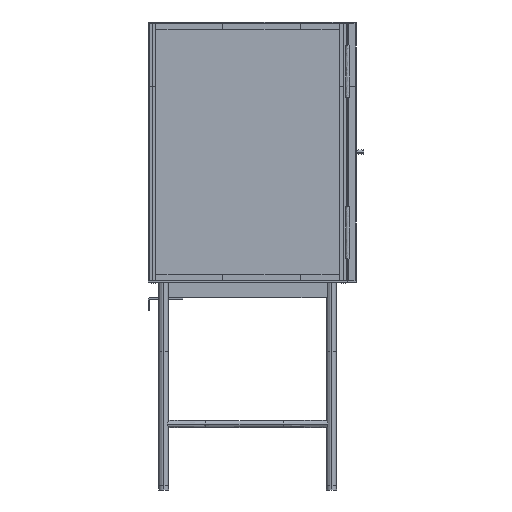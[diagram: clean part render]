
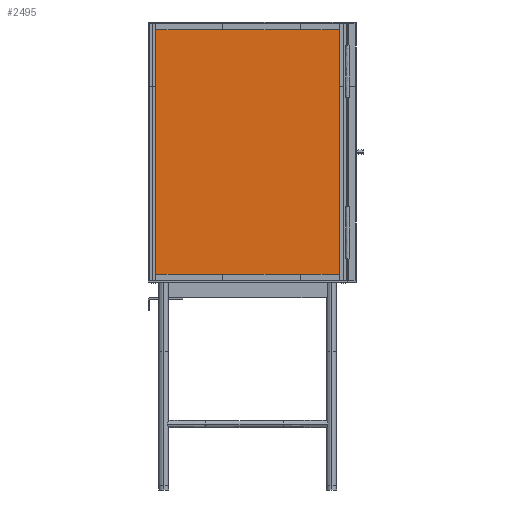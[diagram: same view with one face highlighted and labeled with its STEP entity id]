
A CAD part, left-side view. The second image highlights one B-rep face of the part: STEP entity #2495.
In plain terms, the highlighted planar face has unit normal (-1, 0, 0).
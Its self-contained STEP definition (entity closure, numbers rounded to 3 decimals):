
#802=B_SPLINE_CURVE_WITH_KNOTS('',1,(#21167,#21168),.UNSPECIFIED.,.F.,.F.,
(2,2),(0.,496.),.UNSPECIFIED.);
#805=B_SPLINE_CURVE_WITH_KNOTS('',1,(#21173,#21174),.UNSPECIFIED.,.F.,.F.,
(2,2),(0.,367.),.UNSPECIFIED.);
#806=B_SPLINE_CURVE_WITH_KNOTS('',1,(#21175,#21176),.UNSPECIFIED.,.F.,.F.,
(2,2),(0.,496.),.UNSPECIFIED.);
#807=B_SPLINE_CURVE_WITH_KNOTS('',1,(#21177,#21178),.UNSPECIFIED.,.F.,.F.,
(2,2),(0.,367.),.UNSPECIFIED.);
#2495=ADVANCED_FACE('',(#3405),#12853,.T.);
#3405=FACE_OUTER_BOUND('',#4337,.T.);
#4337=EDGE_LOOP('',(#6910,#6911,#6912,#6913));
#6910=ORIENTED_EDGE('',*,*,#9612,.T.);
#6911=ORIENTED_EDGE('',*,*,#9613,.T.);
#6912=ORIENTED_EDGE('',*,*,#9614,.T.);
#6913=ORIENTED_EDGE('',*,*,#9609,.F.);
#9609=EDGE_CURVE('',#11753,#11754,#802,.T.);
#9612=EDGE_CURVE('',#11753,#11756,#805,.T.);
#9613=EDGE_CURVE('',#11756,#11757,#806,.T.);
#9614=EDGE_CURVE('',#11757,#11754,#807,.T.);
#11753=VERTEX_POINT('',#21158);
#11754=VERTEX_POINT('',#21159);
#11756=VERTEX_POINT('',#21161);
#11757=VERTEX_POINT('',#21162);
#12853=PLANE('',#13435);
#13435=AXIS2_PLACEMENT_3D('',#21152,#14001,$);
#14001=DIRECTION('',(-1.,0.,0.));
#21152=CARTESIAN_POINT('',(-547.,428.82,352.28));
#21158=CARTESIAN_POINT('',(-547.,392.,402.));
#21159=CARTESIAN_POINT('',(-547.,392.,898.));
#21161=CARTESIAN_POINT('',(-547.,25.,402.));
#21162=CARTESIAN_POINT('',(-547.,25.,898.));
#21167=CARTESIAN_POINT('',(-547.,392.,402.));
#21168=CARTESIAN_POINT('',(-547.,392.,898.));
#21173=CARTESIAN_POINT('',(-547.,392.,402.));
#21174=CARTESIAN_POINT('',(-547.,25.,402.));
#21175=CARTESIAN_POINT('',(-547.,25.,402.));
#21176=CARTESIAN_POINT('',(-547.,25.,898.));
#21177=CARTESIAN_POINT('',(-547.,25.,898.));
#21178=CARTESIAN_POINT('',(-547.,392.,898.));
